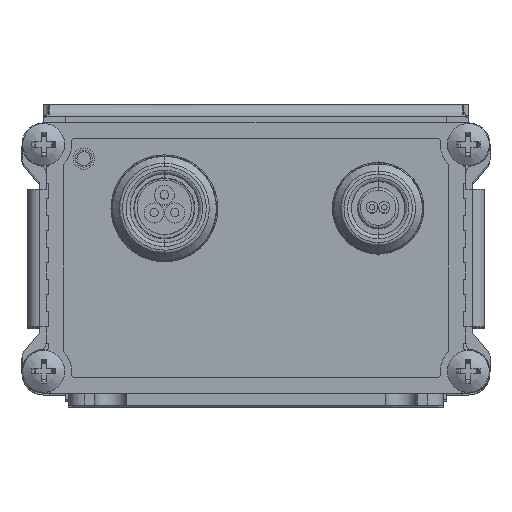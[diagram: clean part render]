
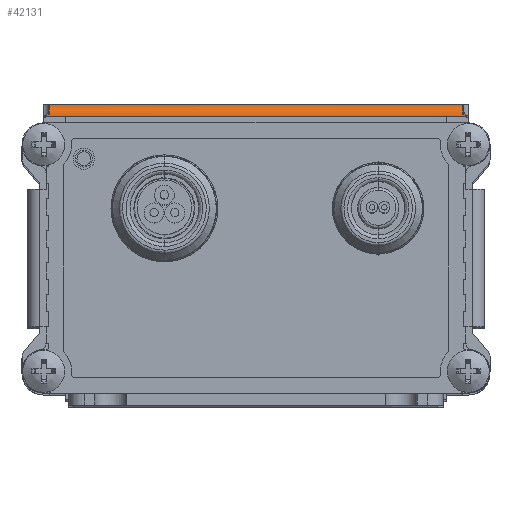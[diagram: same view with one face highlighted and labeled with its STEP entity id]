
A CAD part, top view. The second image highlights one B-rep face of the part: STEP entity #42131.
In plain terms, the highlighted cylindrical face has radius 1.6 mm (diameter 3.2 mm), a partial arc.
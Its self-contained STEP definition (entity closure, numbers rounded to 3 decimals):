
#908 = CARTESIAN_POINT ( 'NONE',  ( 27.14, 20.1, 74.4 ) ) ;
#2596 = CARTESIAN_POINT ( 'NONE',  ( -27.312, 18.876, 75.958 ) ) ;
#2831 = CARTESIAN_POINT ( 'NONE',  ( -27.093, 20.013, 74.93 ) ) ;
#3721 = AXIS2_PLACEMENT_3D ( 'NONE', #34677, #30242, #26823 ) ;
#5221 = VERTEX_POINT ( 'NONE', #39493 ) ;
#6804 = EDGE_CURVE ( 'NONE', #5221, #18584, #13356, .T. ) ;
#7693 = CARTESIAN_POINT ( 'NONE',  ( -27.518, 18.5, 76. ) ) ;
#7799 = ORIENTED_EDGE ( 'NONE', *, *, #34004, .T. ) ;
#7971 = FACE_OUTER_BOUND ( 'NONE', #22809, .T. ) ;
#11651 = DIRECTION ( 'NONE',  ( 1., 0., 0. ) ) ;
#12172 = CARTESIAN_POINT ( 'NONE',  ( 27.173, 19.268, 75.818 ) ) ;
#12174 = CARTESIAN_POINT ( 'NONE',  ( 55.072, 20.1, 74.4 ) ) ;
#12637 = CARTESIAN_POINT ( 'NONE',  ( 27.045, 19.929, 75.128 ) ) ;
#13077 = ORIENTED_EDGE ( 'NONE', *, *, #6804, .T. ) ;
#13120 = CARTESIAN_POINT ( 'NONE',  ( 27.042, 19.876, 75.224 ) ) ;
#13356 = B_SPLINE_CURVE_WITH_KNOTS ( 'NONE', 3,
 ( #20452, #31734, #45669, #12172, #19730, #45899, #34710, #13120, #12637, #20225, #46131, #908 ),
 .UNSPECIFIED., .F., .F.,
 ( 4, 2, 2, 2, 2, 4 ),
 ( 0., 0.001, 0.001, 0.002, 0.002, 0.003 ),
 .UNSPECIFIED. ) ;
#13603 = CARTESIAN_POINT ( 'NONE',  ( -27.094, 19.753, 75.401 ) ) ;
#13850 = CARTESIAN_POINT ( 'NONE',  ( -27.518, 18.5, 76. ) ) ;
#14579 = EDGE_CURVE ( 'NONE', #18584, #19572, #34243, .T. ) ;
#15740 = VECTOR ( 'NONE', #11651, 1000. ) ;
#15989 = CARTESIAN_POINT ( 'NONE',  ( -27.14, 20.1, 74.4 ) ) ;
#17230 = CARTESIAN_POINT ( 'NONE',  ( 27.14, 20.1, 74.4 ) ) ;
#18220 = CARTESIAN_POINT ( 'NONE',  ( -27.127, 20.1, 74.508 ) ) ;
#18584 = VERTEX_POINT ( 'NONE', #17230 ) ;
#19572 = VERTEX_POINT ( 'NONE', #15989 ) ;
#19730 = CARTESIAN_POINT ( 'NONE',  ( 27.102, 19.448, 75.707 ) ) ;
#20225 = CARTESIAN_POINT ( 'NONE',  ( 27.067, 20.057, 74.829 ) ) ;
#20452 = CARTESIAN_POINT ( 'NONE',  ( 27.518, 18.5, 76. ) ) ;
#21187 = CARTESIAN_POINT ( 'NONE',  ( -27.176, 19.264, 75.821 ) ) ;
#22661 = LINE ( 'NONE', #45142, #15740 ) ;
#22809 = EDGE_LOOP ( 'NONE', ( #43732, #7799, #13077, #41238 ) ) ;
#24886 = CARTESIAN_POINT ( 'NONE',  ( -27.101, 19.682, 75.484 ) ) ;
#26620 = DIRECTION ( 'NONE',  ( -1., 0., 0. ) ) ;
#26823 = DIRECTION ( 'NONE',  ( 0., 0., 1. ) ) ;
#27309 = CYLINDRICAL_SURFACE ( 'NONE', #3721, 1.6 ) ;
#27466 = B_SPLINE_CURVE_WITH_KNOTS ( 'NONE', 3,
 ( #43448, #18220, #47122, #43203, #2831, #43919, #39580, #13603, #24886, #39822, #21187, #36145, #2596, #47365, #36395, #13850 ),
 .UNSPECIFIED., .F., .F.,
 ( 4, 2, 2, 2, 2, 2, 2, 4 ),
 ( 0., 0., 0.001, 0.001, 0.001, 0.002, 0.002, 0.003 ),
 .UNSPECIFIED. ) ;
#30242 = DIRECTION ( 'NONE',  ( -1., 0., 0. ) ) ;
#31734 = CARTESIAN_POINT ( 'NONE',  ( 27.421, 18.696, 76. ) ) ;
#32349 = VECTOR ( 'NONE', #26620, 1000. ) ;
#34004 = EDGE_CURVE ( 'NONE', #45729, #5221, #22661, .T. ) ;
#34243 = LINE ( 'NONE', #12174, #32349 ) ;
#34677 = CARTESIAN_POINT ( 'NONE',  ( 55.072, 18.5, 74.4 ) ) ;
#34710 = CARTESIAN_POINT ( 'NONE',  ( 27.047, 19.752, 75.402 ) ) ;
#36145 = CARTESIAN_POINT ( 'NONE',  ( -27.273, 18.976, 75.931 ) ) ;
#36395 = CARTESIAN_POINT ( 'NONE',  ( -27.456, 18.59, 76. ) ) ;
#39493 = CARTESIAN_POINT ( 'NONE',  ( 27.518, 18.5, 76. ) ) ;
#39580 = CARTESIAN_POINT ( 'NONE',  ( -27.087, 19.876, 75.223 ) ) ;
#39822 = CARTESIAN_POINT ( 'NONE',  ( -27.135, 19.45, 75.705 ) ) ;
#41238 = ORIENTED_EDGE ( 'NONE', *, *, #14579, .T. ) ;
#42131 = ADVANCED_FACE ( 'NONE', ( #7971 ), #27309, .T. ) ;
#43203 = CARTESIAN_POINT ( 'NONE',  ( -27.099, 20.046, 74.825 ) ) ;
#43263 = EDGE_CURVE ( 'NONE', #19572, #45729, #27466, .T. ) ;
#43448 = CARTESIAN_POINT ( 'NONE',  ( -27.14, 20.1, 74.4 ) ) ;
#43732 = ORIENTED_EDGE ( 'NONE', *, *, #43263, .T. ) ;
#43919 = CARTESIAN_POINT ( 'NONE',  ( -27.087, 19.929, 75.129 ) ) ;
#45142 = CARTESIAN_POINT ( 'NONE',  ( 0., 18.5, 76. ) ) ;
#45669 = CARTESIAN_POINT ( 'NONE',  ( 27.33, 18.894, 75.964 ) ) ;
#45729 = VERTEX_POINT ( 'NONE', #7693 ) ;
#45899 = CARTESIAN_POINT ( 'NONE',  ( 27.056, 19.681, 75.485 ) ) ;
#46131 = CARTESIAN_POINT ( 'NONE',  ( 27.098, 20.1, 74.615 ) ) ;
#47122 = CARTESIAN_POINT ( 'NONE',  ( -27.116, 20.089, 74.615 ) ) ;
#47365 = CARTESIAN_POINT ( 'NONE',  ( -27.404, 18.684, 75.992 ) ) ;
